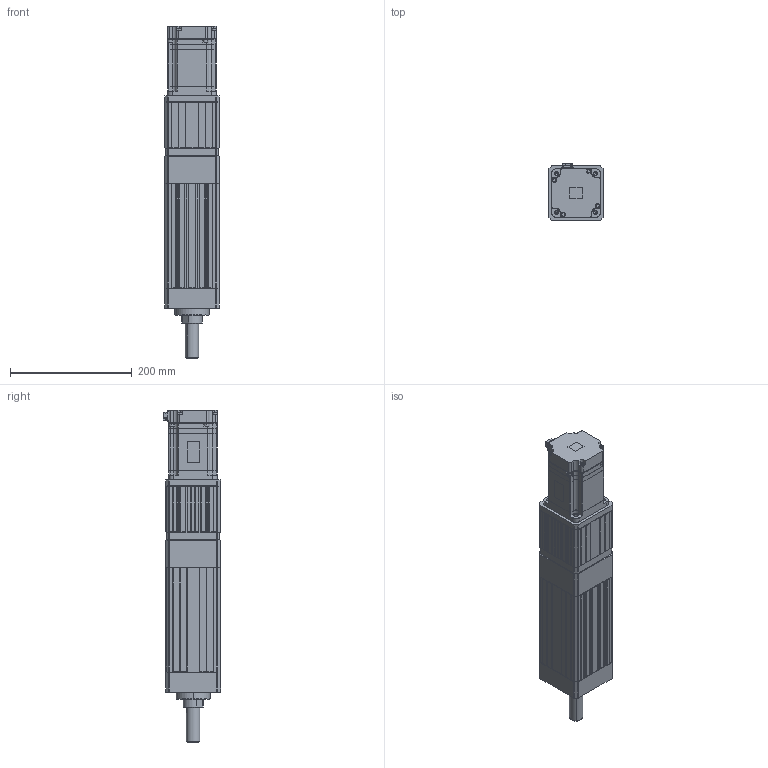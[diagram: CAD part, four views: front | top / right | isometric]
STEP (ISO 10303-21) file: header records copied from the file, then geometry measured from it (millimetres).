
FILE_DESCRIPTION (( 'STEP AP203' ), '1' );
FILE_NAME ('ANS090R-S050-05(10)(20)-W75-M.STEP', '2019-03-02T10:48:48', ( 'user' ), ( '' ), 'SwSTEP 2.0', 'SolidWorks 2013', '' );
FILE_SCHEMA (( 'CONFIG_CONTROL_DESIGN' ));
Length unit declared in the file: millimetre
Products named in the file (4): SGMJV_08A_A21; ANS090 ROD ST050-M; ANS090R-S050-05(10)(20)-W75-M; ANS090R S050 VER2
Assembly tree (3 placements, depth 2):
  ANS090R-S050-05(10)(20)-W75-M
    ANS090R S050 VER2
    SGMJV_08A_A21
    ANS090 ROD ST050-M
Bounding box: 90 x 93.8 x 546.1 mm (x, y, z)
Volume: 2319913.6 mm3; surface area: 342422.5 mm2
Topology: 3 solids, 3 shells, 1438 faces, 3878 edges, 2504 vertices
Faces by surface type: plane 930, cylinder 404, cone 100, bspline 4
Entity records: 45220 total; most frequent: CARTESIAN_POINT 8496, ORIENTED_EDGE 7708, DIRECTION 7414, EDGE_CURVE 3854, LINE 2890, VECTOR 2890, VERTEX_POINT 2504, AXIS2_PLACEMENT_3D 2262
